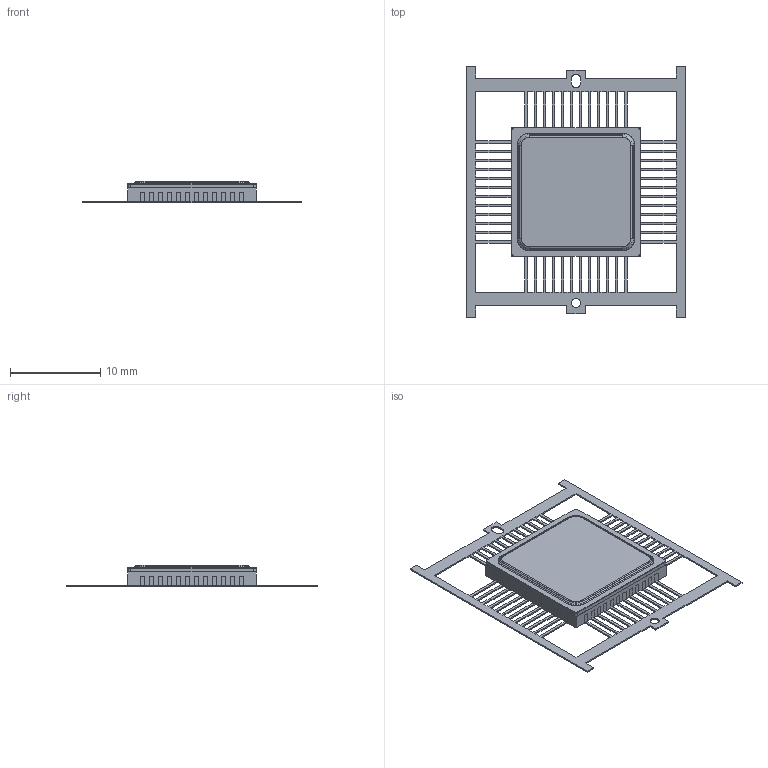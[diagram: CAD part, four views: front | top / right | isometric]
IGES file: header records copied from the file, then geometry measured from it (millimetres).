
Start section: SolidWorks IGES file using analytic representation for surfaces
Global section: file name: C:\Users\niktr\Desktop\### Ïåðåïèñêà ñ ÇÏÏ Éîøêàð Îëà\16_06_2017 3D ìîäåëè êîðïóñîâ â Solidworks\Í16.48-2Â(SolidWorks)\Êîðïóñ H16.48-2B.IGS; native system: SolidWorks 2016; preprocessor: SolidWorks 2016; author: niktr; date: 170618.220450; units: millimetre
Bounding box: 24.2 x 27.8 x 2.4 mm (x, y, z)
Surface area: 1601.9 mm2 (no closed solid volume)
Topology: 0 solids, 0 shells, 1122 faces, 19986 edges, 26552 vertices
Faces by surface type: bspline 1074, revolution 48
